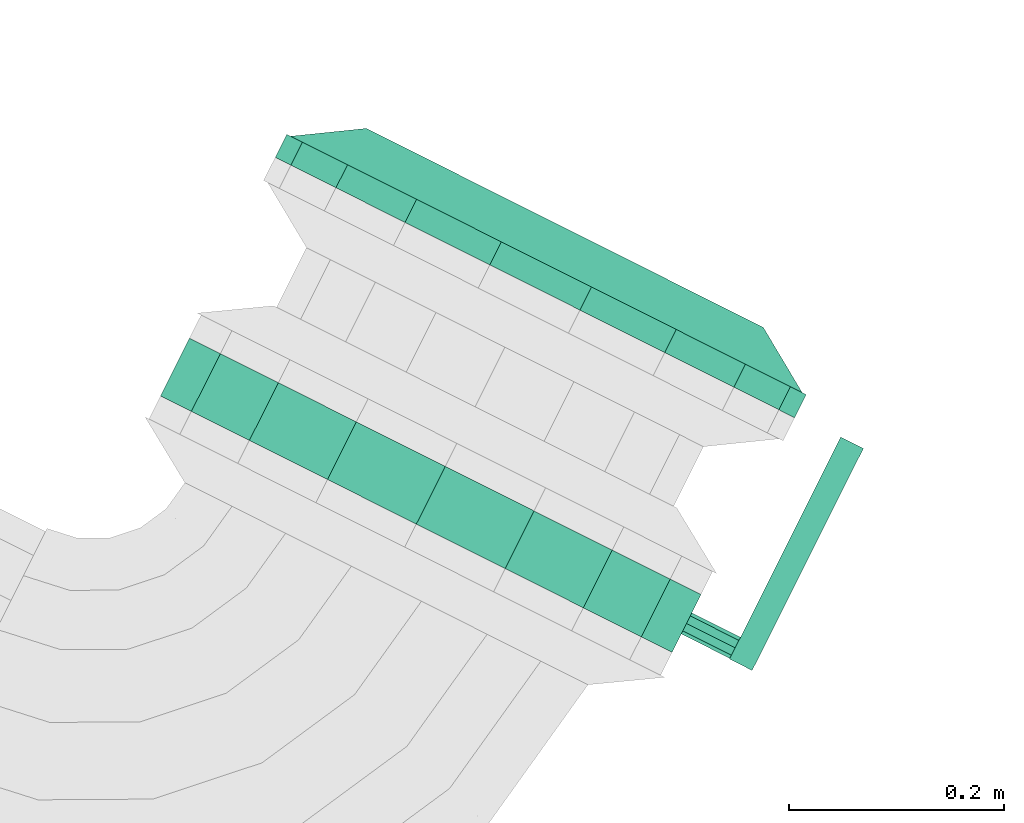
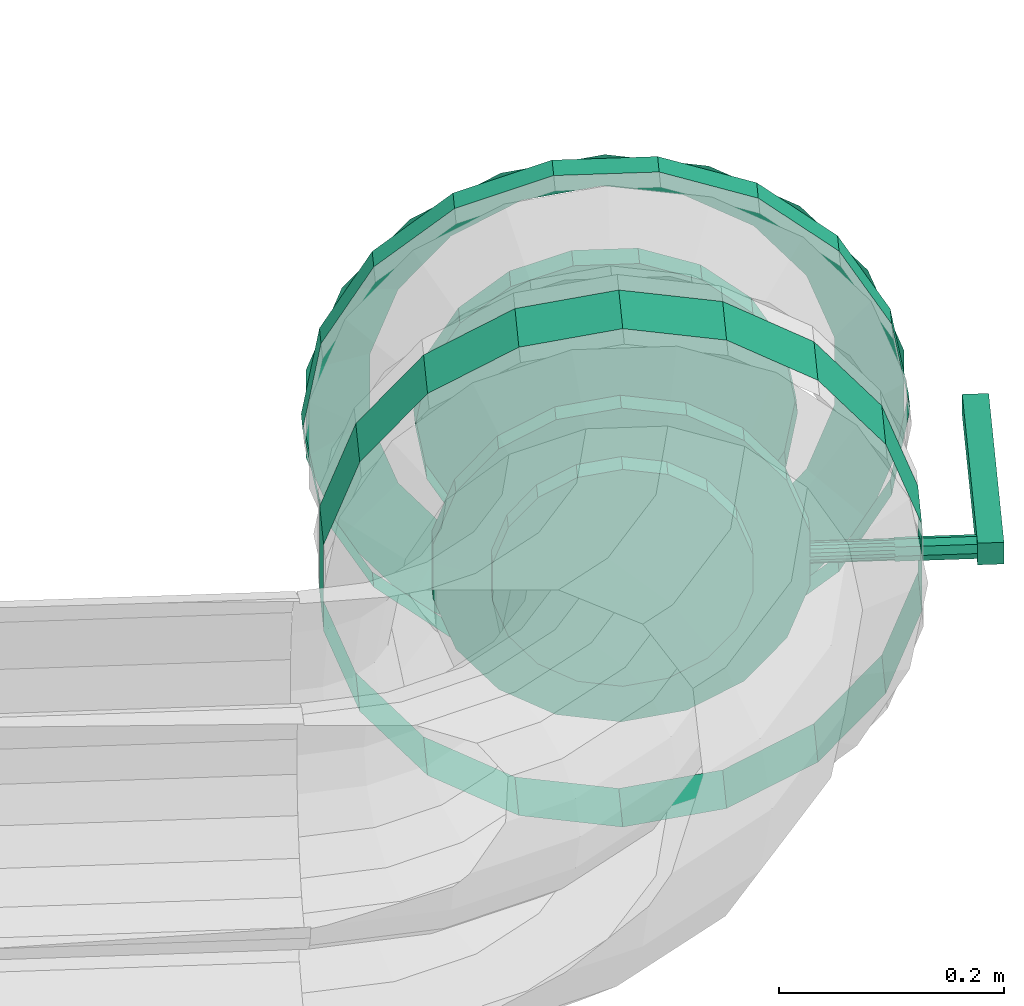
# One storey, part 54 of 152: 1 flow controller, 1 flow fitting.
"""IFC2X3 building model written with IfcOpenShell, lengths in metres."""

from ifc_helpers import new_model, si_unit, derived_unit, direction, frame, origin, place, context, subcontext, project, spatial, face_set, surface_model, source, transform, mapped, material, type_object, type_shapes, element, save


model = new_model("IFC2X3")

# Units and contexts
model_context = context("Model", 3, precision=5.2338327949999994e-05, world=origin(), true_north=direction((0.0, 1.0)))
body_context = subcontext(model_context, "Body", "Model", "MODEL_VIEW")
ifc_project = project(units=[si_unit("LENGTHUNIT", "METRE"), si_unit("AREAUNIT", "SQUARE_METRE"), si_unit("VOLUMEUNIT", "CUBIC_METRE"), si_unit("MASSUNIT", "GRAM", prefix="KILO"), si_unit("PLANEANGLEUNIT", "RADIAN"), derived_unit("THERMALTRANSMITTANCEUNIT", [(si_unit("MASSUNIT", "GRAM", prefix="KILO"), 1), (si_unit("THERMODYNAMICTEMPERATUREUNIT", "KELVIN"), -1), (si_unit("TIMEUNIT", "SECOND"), -3)])], contexts=[model_context])

# Site, building, storey
site_placement = place(None, frame((0.0, 0.0, 0.0), z_axis=(0.0, 0.0, 1.0), x_axis=(0.8939966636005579, -0.4480736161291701, 0.0)))
site = spatial("IfcSite", under=ifc_project, at=site_placement, Name="Default", CompositionType="ELEMENT")
building_placement = place(site_placement, origin())
building = spatial("IfcBuilding", under=site, at=building_placement, CompositionType="ELEMENT")
storey_placement = place(building_placement, frame((0.0, 0.0, 2.7499999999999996)))
storey = spatial("IfcBuildingStorey", under=building, at=storey_placement, Name="1. Obergeschoss", CompositionType="ELEMENT", Elevation=2.7499999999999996)

# Flow controller
ifc_material = material(Name="IfcSurfaceStyle #9317")
distribution_element_type_1 = type_object("IfcDistributionElementType", Name="Zwischenflanschklappe 301597:Zwischenflanschklappe 301597", material=ifc_material)
shared_shape_1 = source(origin(), body_context, "Body", "SurfaceModel", [
    surface_model("IfcFaceBasedSurfaceModel", [(35.32102814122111, 9.250086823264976, 4.571299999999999), (35.32102814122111, 9.019236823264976, 4.571299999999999), (35.32102814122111, 9.019236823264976, 4.547799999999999), (35.32102814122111, 9.250086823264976, 4.547799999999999), (35.34452814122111, 9.019236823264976, 4.547799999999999), (35.34452814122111, 9.250086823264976, 4.547799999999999), (35.34452814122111, 9.019236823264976, 4.571299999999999), (35.34452814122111, 9.250086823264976, 4.571299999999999), (35.004528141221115, 9.060986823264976, 4.442049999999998), (35.044715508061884, 9.060986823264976, 4.4491361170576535), (35.044715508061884, 9.040986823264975, 4.4491361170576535), (35.004528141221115, 9.040986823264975, 4.442049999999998), (35.080055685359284, 9.060986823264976, 4.469539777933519), (35.080055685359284, 9.040986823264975, 4.469539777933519), (35.10628612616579, 9.060986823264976, 4.500799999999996), (35.10628612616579, 9.040986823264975, 4.500799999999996), (35.12024305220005, 9.060986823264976, 4.539146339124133), (35.12024305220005, 9.040986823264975, 4.539146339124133), (35.12024305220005, 9.060986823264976, 4.579953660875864), (35.12024305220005, 9.040986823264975, 4.579953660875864), (35.10628612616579, 9.060986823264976, 4.618300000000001), (35.10628612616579, 9.040986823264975, 4.618300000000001), (35.080055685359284, 9.060986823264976, 4.649560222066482), (35.080055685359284, 9.040986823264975, 4.649560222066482), (35.044715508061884, 9.060986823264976, 4.669963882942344), (35.044715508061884, 9.040986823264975, 4.669963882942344), (35.004528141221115, 9.060986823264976, 4.677049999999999), (35.004528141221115, 9.040986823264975, 4.677049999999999), (34.964340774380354, 9.060986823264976, 4.669963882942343), (34.964340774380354, 9.040986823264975, 4.669963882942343), (34.929000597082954, 9.060986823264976, 4.6495602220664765), (34.929000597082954, 9.040986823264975, 4.6495602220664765), (34.902770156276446, 9.060986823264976, 4.618299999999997), (34.902770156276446, 9.040986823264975, 4.618299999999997), (34.888813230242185, 9.060986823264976, 4.579953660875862), (34.888813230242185, 9.040986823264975, 4.579953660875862), (34.888813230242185, 9.060986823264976, 4.539146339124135), (34.888813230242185, 9.040986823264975, 4.539146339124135), (34.902770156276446, 9.060986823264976, 4.5008), (34.902770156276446, 9.040986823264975, 4.5008), (34.929000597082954, 9.060986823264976, 4.46953977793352), (34.929000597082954, 9.040986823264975, 4.46953977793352), (34.964340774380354, 9.060986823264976, 4.449136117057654), (34.964340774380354, 9.040986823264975, 4.449136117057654), (35.004528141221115, 9.060986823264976, 4.559549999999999), (35.004528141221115, 9.040986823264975, 4.559549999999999), (35.004528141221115, 9.040986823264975, 4.389549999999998), (35.06267156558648, 9.040986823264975, 4.399802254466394), (35.06267156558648, 9.020986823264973, 4.399802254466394), (35.004528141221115, 9.020986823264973, 4.389549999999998), (35.11380203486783, 9.040986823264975, 4.429322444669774), (35.11380203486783, 9.020986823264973, 4.429322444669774), (35.151752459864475, 9.040986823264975, 4.47455), (35.151752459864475, 9.020986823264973, 4.47455), (35.17194545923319, 9.040986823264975, 4.530029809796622), (35.17194545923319, 9.020986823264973, 4.530029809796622), (35.17194545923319, 9.040986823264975, 4.589070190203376), (35.17194545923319, 9.020986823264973, 4.589070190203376), (35.151752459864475, 9.040986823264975, 4.64455), (35.151752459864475, 9.020986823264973, 4.64455), (35.11380203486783, 9.040986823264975, 4.689777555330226), (35.11380203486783, 9.020986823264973, 4.689777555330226), (35.06267156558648, 9.040986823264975, 4.719297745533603), (35.06267156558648, 9.020986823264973, 4.719297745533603), (35.004528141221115, 9.040986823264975, 4.72955), (35.004528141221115, 9.020986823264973, 4.72955), (34.94638471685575, 9.040986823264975, 4.719297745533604), (34.94638471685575, 9.020986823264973, 4.719297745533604), (34.8952542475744, 9.040986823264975, 4.6897775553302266), (34.8952542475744, 9.020986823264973, 4.6897775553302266), (34.85730382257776, 9.040986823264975, 4.64455), (34.85730382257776, 9.020986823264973, 4.64455), (34.83711082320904, 9.040986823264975, 4.589070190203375), (34.83711082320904, 9.020986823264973, 4.589070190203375), (34.83711082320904, 9.040986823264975, 4.530029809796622), (34.83711082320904, 9.020986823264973, 4.530029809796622), (34.85730382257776, 9.040986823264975, 4.474550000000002), (34.85730382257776, 9.020986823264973, 4.474550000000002), (34.8952542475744, 9.040986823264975, 4.429322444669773), (34.8952542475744, 9.020986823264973, 4.429322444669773), (34.94638471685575, 9.040986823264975, 4.399802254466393), (34.94638471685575, 9.020986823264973, 4.399802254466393), (35.004528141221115, 9.020986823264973, 4.559549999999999), (35.004528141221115, 9.020986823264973, 4.442049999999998), (35.044715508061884, 9.020986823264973, 4.4491361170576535), (35.044715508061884, 9.000986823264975, 4.4491361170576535), (35.004528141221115, 9.000986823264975, 4.442049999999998), (35.080055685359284, 9.020986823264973, 4.469539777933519), (35.080055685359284, 9.000986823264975, 4.469539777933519), (35.10628612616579, 9.020986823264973, 4.500799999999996), (35.10628612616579, 9.000986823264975, 4.500799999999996), (35.12024305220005, 9.020986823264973, 4.539146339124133), (35.12024305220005, 9.000986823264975, 4.539146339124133), (35.12024305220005, 9.020986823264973, 4.579953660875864), (35.12024305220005, 9.000986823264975, 4.579953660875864), (35.10628612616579, 9.020986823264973, 4.618300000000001), (35.10628612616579, 9.000986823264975, 4.618300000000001), (35.080055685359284, 9.020986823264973, 4.649560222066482), (35.080055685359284, 9.000986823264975, 4.649560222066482), (35.044715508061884, 9.020986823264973, 4.669963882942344), (35.044715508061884, 9.000986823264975, 4.669963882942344), (35.004528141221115, 9.020986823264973, 4.677049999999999), (35.004528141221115, 9.000986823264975, 4.677049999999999), (34.964340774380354, 9.020986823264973, 4.669963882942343), (34.964340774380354, 9.000986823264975, 4.669963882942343), (34.929000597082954, 9.020986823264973, 4.6495602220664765), (34.929000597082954, 9.000986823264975, 4.6495602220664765), (34.902770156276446, 9.020986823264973, 4.618299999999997), (34.902770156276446, 9.000986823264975, 4.618299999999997), (34.888813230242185, 9.020986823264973, 4.579953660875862), (34.888813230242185, 9.000986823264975, 4.579953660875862), (34.888813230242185, 9.020986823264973, 4.539146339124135), (34.888813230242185, 9.000986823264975, 4.539146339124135), (34.902770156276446, 9.020986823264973, 4.5008), (34.902770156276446, 9.000986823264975, 4.5008), (34.929000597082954, 9.020986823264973, 4.46953977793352), (34.929000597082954, 9.000986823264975, 4.46953977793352), (34.964340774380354, 9.020986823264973, 4.449136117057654), (34.964340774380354, 9.000986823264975, 4.449136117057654), (35.004528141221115, 9.000986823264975, 4.559549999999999), (35.004528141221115, 9.030986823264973, 4.549549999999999), (35.004528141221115, 9.034407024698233, 4.55015307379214), (35.24777814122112, 9.034407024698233, 4.55015307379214), (35.24777814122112, 9.030986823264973, 4.549549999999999), (35.004528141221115, 9.03741469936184, 4.55188955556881), (35.24777814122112, 9.03741469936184, 4.55188955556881), (35.004528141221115, 9.03964707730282, 4.554549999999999), (35.24777814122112, 9.03964707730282, 4.554549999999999), (35.004528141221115, 9.040834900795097, 4.55781351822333), (35.24777814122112, 9.040834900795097, 4.55781351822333), (35.004528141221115, 9.040834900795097, 4.561286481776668), (35.24777814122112, 9.040834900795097, 4.561286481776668), (35.004528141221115, 9.03964707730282, 4.564549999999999), (35.24777814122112, 9.03964707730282, 4.564549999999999), (35.004528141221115, 9.03741469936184, 4.567210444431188), (35.24777814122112, 9.03741469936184, 4.567210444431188), (35.004528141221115, 9.034407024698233, 4.568946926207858), (35.24777814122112, 9.034407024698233, 4.568946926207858), (35.004528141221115, 9.030986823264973, 4.56955), (35.24777814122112, 9.030986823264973, 4.56955), (35.004528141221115, 9.027566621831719, 4.568946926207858), (35.24777814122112, 9.027566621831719, 4.568946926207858), (35.004528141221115, 9.02455894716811, 4.567210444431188), (35.24777814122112, 9.02455894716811, 4.567210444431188), (35.004528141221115, 9.02232656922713, 4.564549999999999), (35.24777814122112, 9.02232656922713, 4.564549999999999), (35.004528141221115, 9.021138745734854, 4.561286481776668), (35.24777814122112, 9.021138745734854, 4.561286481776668), (35.004528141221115, 9.021138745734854, 4.55781351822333), (35.24777814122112, 9.021138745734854, 4.55781351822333), (35.004528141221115, 9.02232656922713, 4.554549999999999), (35.24777814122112, 9.02232656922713, 4.554549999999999), (35.004528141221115, 9.02455894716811, 4.55188955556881), (35.24777814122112, 9.02455894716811, 4.55188955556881), (35.004528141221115, 9.027566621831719, 4.55015307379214), (35.24777814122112, 9.027566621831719, 4.55015307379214), (35.004528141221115, 9.030986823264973, 4.559549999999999), (35.24777814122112, 9.030986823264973, 4.559549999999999), (35.24777814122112, 9.030986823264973, 4.548594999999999), (35.24777814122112, 9.038733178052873, 4.5518036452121), (35.32102814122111, 9.038733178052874, 4.5518036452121), (35.32102814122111, 9.030986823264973, 4.548594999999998), (35.24777814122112, 9.041941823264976, 4.559549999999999), (35.32102814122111, 9.041941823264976, 4.559549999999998), (35.24777814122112, 9.038733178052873, 4.567296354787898), (35.32102814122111, 9.038733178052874, 4.5672963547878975), (35.24777814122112, 9.030986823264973, 4.570504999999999), (35.32102814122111, 9.030986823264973, 4.570504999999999), (35.24777814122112, 9.023240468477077, 4.567296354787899), (35.32102814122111, 9.023240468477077, 4.567296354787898), (35.24777814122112, 9.020031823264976, 4.559549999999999), (35.32102814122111, 9.020031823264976, 4.559549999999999), (35.24777814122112, 9.023240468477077, 4.5518036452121), (35.32102814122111, 9.023240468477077, 4.5518036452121), (35.32102814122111, 9.030986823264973, 4.559549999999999), (35.004528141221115, 9.060986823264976, 4.289549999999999), (35.09687357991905, 9.060986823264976, 4.305832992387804), (35.09687357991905, 9.000986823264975, 4.305832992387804), (35.004528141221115, 9.000986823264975, 4.289549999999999), (35.178080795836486, 9.060986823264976, 4.352718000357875), (35.178080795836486, 9.000986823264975, 4.352718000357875), (35.23835500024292, 9.060986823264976, 4.424549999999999), (35.23835500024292, 9.000986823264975, 4.424549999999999), (35.27042623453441, 9.060986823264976, 4.512664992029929), (35.27042623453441, 9.000986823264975, 4.512664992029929), (35.27042623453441, 9.060986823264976, 4.606435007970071), (35.27042623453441, 9.000986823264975, 4.606435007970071), (35.23835500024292, 9.060986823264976, 4.694549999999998), (35.23835500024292, 9.000986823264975, 4.694549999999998), (35.178080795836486, 9.060986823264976, 4.766381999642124), (35.178080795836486, 9.000986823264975, 4.766381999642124), (35.09687357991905, 9.060986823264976, 4.813267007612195), (35.09687357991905, 9.000986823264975, 4.813267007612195), (35.004528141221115, 9.060986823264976, 4.8295499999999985), (35.004528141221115, 9.000986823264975, 4.8295499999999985), (34.91218270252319, 9.060986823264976, 4.813267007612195), (34.91218270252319, 9.000986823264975, 4.813267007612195), (34.83097548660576, 9.060986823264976, 4.766381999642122), (34.83097548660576, 9.000986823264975, 4.766381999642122), (34.77070128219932, 9.060986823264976, 4.694549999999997), (34.77070128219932, 9.000986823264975, 4.694549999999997), (34.73863004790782, 9.060986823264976, 4.606435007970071), (34.73863004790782, 9.000986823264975, 4.606435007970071), (34.73863004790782, 9.060986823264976, 4.5126649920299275), (34.73863004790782, 9.000986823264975, 4.5126649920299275), (34.77070128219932, 9.060986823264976, 4.424549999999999), (34.77070128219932, 9.000986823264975, 4.424549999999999), (34.83097548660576, 9.060986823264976, 4.352718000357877), (34.83097548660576, 9.000986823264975, 4.352718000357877), (34.91218270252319, 9.060986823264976, 4.3058329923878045), (34.91218270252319, 9.000986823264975, 4.3058329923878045)], [face_set([[[0, 1, 2, 3]], [[3, 2, 4, 5]], [[5, 4, 6, 7]], [[7, 6, 1, 0]], [[0, 3, 5, 7]], [[6, 4, 2, 1]], [[8, 9, 10, 11]], [[9, 12, 13, 10]], [[12, 14, 15, 13]], [[14, 16, 17, 15]], [[16, 18, 19, 17]], [[18, 20, 21, 19]], [[20, 22, 23, 21]], [[22, 24, 25, 23]], [[24, 26, 27, 25]], [[26, 28, 29, 27]], [[28, 30, 31, 29]], [[30, 32, 33, 31]], [[32, 34, 35, 33]], [[34, 36, 37, 35]], [[36, 38, 39, 37]], [[38, 40, 41, 39]], [[40, 42, 43, 41]], [[42, 8, 11, 43]], [[44, 9, 8]], [[44, 12, 9]], [[44, 14, 12]], [[44, 16, 14]], [[44, 18, 16]], [[44, 20, 18]], [[44, 22, 20]], [[44, 24, 22]], [[44, 26, 24]], [[44, 28, 26]], [[44, 30, 28]], [[44, 32, 30]], [[44, 34, 32]], [[44, 36, 34]], [[44, 38, 36]], [[44, 40, 38]], [[44, 42, 40]], [[44, 8, 42]], [[45, 43, 11]], [[45, 41, 43]], [[45, 39, 41]], [[45, 37, 39]], [[45, 35, 37]], [[45, 33, 35]], [[45, 31, 33]], [[45, 29, 31]], [[45, 27, 29]], [[45, 25, 27]], [[45, 23, 25]], [[45, 21, 23]], [[45, 19, 21]], [[45, 17, 19]], [[45, 15, 17]], [[45, 13, 15]], [[45, 10, 13]], [[45, 11, 10]], [[46, 47, 48, 49]], [[47, 50, 51, 48]], [[50, 52, 53, 51]], [[52, 54, 55, 53]], [[54, 56, 57, 55]], [[56, 58, 59, 57]], [[58, 60, 61, 59]], [[60, 62, 63, 61]], [[62, 64, 65, 63]], [[64, 66, 67, 65]], [[66, 68, 69, 67]], [[68, 70, 71, 69]], [[70, 72, 73, 71]], [[72, 74, 75, 73]], [[74, 76, 77, 75]], [[76, 78, 79, 77]], [[78, 80, 81, 79]], [[80, 46, 49, 81]], [[45, 47, 46]], [[45, 50, 47]], [[45, 52, 50]], [[45, 54, 52]], [[45, 56, 54]], [[45, 58, 56]], [[45, 60, 58]], [[45, 62, 60]], [[45, 64, 62]], [[45, 66, 64]], [[45, 68, 66]], [[45, 70, 68]], [[45, 72, 70]], [[45, 74, 72]], [[45, 76, 74]], [[45, 78, 76]], [[45, 80, 78]], [[45, 46, 80]], [[82, 81, 49]], [[82, 79, 81]], [[82, 77, 79]], [[82, 75, 77]], [[82, 73, 75]], [[82, 71, 73]], [[82, 69, 71]], [[82, 67, 69]], [[82, 65, 67]], [[82, 63, 65]], [[82, 61, 63]], [[82, 59, 61]], [[82, 57, 59]], [[82, 55, 57]], [[82, 53, 55]], [[82, 51, 53]], [[82, 48, 51]], [[82, 49, 48]], [[83, 84, 85, 86]], [[84, 87, 88, 85]], [[87, 89, 90, 88]], [[89, 91, 92, 90]], [[91, 93, 94, 92]], [[93, 95, 96, 94]], [[95, 97, 98, 96]], [[97, 99, 100, 98]], [[99, 101, 102, 100]], [[101, 103, 104, 102]], [[103, 105, 106, 104]], [[105, 107, 108, 106]], [[107, 109, 110, 108]], [[109, 111, 112, 110]], [[111, 113, 114, 112]], [[113, 115, 116, 114]], [[115, 117, 118, 116]], [[117, 83, 86, 118]], [[82, 84, 83]], [[82, 87, 84]], [[82, 89, 87]], [[82, 91, 89]], [[82, 93, 91]], [[82, 95, 93]], [[82, 97, 95]], [[82, 99, 97]], [[82, 101, 99]], [[82, 103, 101]], [[82, 105, 103]], [[82, 107, 105]], [[82, 109, 107]], [[82, 111, 109]], [[82, 113, 111]], [[82, 115, 113]], [[82, 117, 115]], [[82, 83, 117]], [[119, 118, 86]], [[119, 116, 118]], [[119, 114, 116]], [[119, 112, 114]], [[119, 110, 112]], [[119, 108, 110]], [[119, 106, 108]], [[119, 104, 106]], [[119, 102, 104]], [[119, 100, 102]], [[119, 98, 100]], [[119, 96, 98]], [[119, 94, 96]], [[119, 92, 94]], [[119, 90, 92]], [[119, 88, 90]], [[119, 85, 88]], [[119, 86, 85]], [[120, 121, 122, 123]], [[121, 124, 125, 122]], [[124, 126, 127, 125]], [[126, 128, 129, 127]], [[128, 130, 131, 129]], [[130, 132, 133, 131]], [[132, 134, 135, 133]], [[134, 136, 137, 135]], [[136, 138, 139, 137]], [[138, 140, 141, 139]], [[140, 142, 143, 141]], [[142, 144, 145, 143]], [[144, 146, 147, 145]], [[146, 148, 149, 147]], [[148, 150, 151, 149]], [[150, 152, 153, 151]], [[152, 154, 155, 153]], [[154, 120, 123, 155]], [[156, 121, 120]], [[156, 124, 121]], [[156, 126, 124]], [[156, 128, 126]], [[156, 130, 128]], [[156, 132, 130]], [[156, 134, 132]], [[156, 136, 134]], [[156, 138, 136]], [[156, 140, 138]], [[156, 142, 140]], [[156, 144, 142]], [[156, 146, 144]], [[156, 148, 146]], [[156, 150, 148]], [[156, 152, 150]], [[156, 154, 152]], [[156, 120, 154]], [[157, 155, 123]], [[157, 153, 155]], [[157, 151, 153]], [[157, 149, 151]], [[157, 147, 149]], [[157, 145, 147]], [[157, 143, 145]], [[157, 141, 143]], [[157, 139, 141]], [[157, 137, 139]], [[157, 135, 137]], [[157, 133, 135]], [[157, 131, 133]], [[157, 129, 131]], [[157, 127, 129]], [[157, 125, 127]], [[157, 122, 125]], [[157, 123, 122]], [[158, 159, 160, 161]], [[159, 162, 163, 160]], [[162, 164, 165, 163]], [[164, 166, 167, 165]], [[166, 168, 169, 167]], [[168, 170, 171, 169]], [[170, 172, 173, 171]], [[172, 158, 161, 173]], [[174, 173, 161]], [[174, 171, 173]], [[174, 169, 171]], [[174, 167, 169]], [[174, 165, 167]], [[174, 163, 165]], [[174, 160, 163]], [[174, 161, 160]], [[175, 176, 177, 178]], [[176, 179, 180, 177]], [[179, 181, 182, 180]], [[181, 183, 184, 182]], [[183, 185, 186, 184]], [[185, 187, 188, 186]], [[187, 189, 190, 188]], [[189, 191, 192, 190]], [[191, 193, 194, 192]], [[193, 195, 196, 194]], [[195, 197, 198, 196]], [[197, 199, 200, 198]], [[199, 201, 202, 200]], [[201, 203, 204, 202]], [[203, 205, 206, 204]], [[205, 207, 208, 206]], [[207, 209, 210, 208]], [[209, 175, 178, 210]]])]),
])
type_shapes(distribution_element_type_1, [shared_shape_1])
flow_controller_placement = place(storey_placement, frame((0.0, 0.0, -2.7499999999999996)))
element("IfcFlowController", 1, at=flow_controller_placement, inside=storey, type_object=distribution_element_type_1, material=ifc_material, Name="Zwischenflanschklappe", ObjectType="Zwischenflanschklappe", context=body_context, shape_type="MappedRepresentation", body=[
    mapped(shared_shape_1, transform((0.0, 0.0, 0.0), scale=1.0)),
])

# Flow fitting
distribution_element_type_2 = type_object("IfcDistributionElementType", Name="Flansch 303291:Flansch 303291", material=ifc_material)
shared_shape_2 = source(origin(), body_context, "Body", "SurfaceModel", [
    surface_model("IfcFaceBasedSurfaceModel", [(35.004528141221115, 9.308950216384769, 4.669100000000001), (34.9670598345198, 9.308950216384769, 4.6624933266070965), (34.96434077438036, 9.270950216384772, 4.669963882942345), (35.00452814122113, 9.270950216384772, 4.677050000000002), (34.93411075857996, 9.308950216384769, 4.643470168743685), (34.929000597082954, 9.270950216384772, 4.649560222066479), (34.909655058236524, 9.308950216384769, 4.614325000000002), (34.902770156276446, 9.270950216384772, 4.6183000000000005), (34.896642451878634, 9.30895021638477, 4.578573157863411), (34.888813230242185, 9.270950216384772, 4.579953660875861), (34.896642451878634, 9.30895021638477, 4.540526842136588), (34.888813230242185, 9.270950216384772, 4.539146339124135), (34.90965505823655, 9.308950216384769, 4.504775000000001), (34.902770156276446, 9.27095021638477, 4.500800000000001), (34.934110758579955, 9.30895021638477, 4.475629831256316), (34.92900059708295, 9.270950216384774, 4.469539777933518), (34.967059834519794, 9.30895021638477, 4.456606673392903), (34.964340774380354, 9.270950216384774, 4.4491361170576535), (35.004528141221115, 9.30895021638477, 4.45), (35.004528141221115, 9.270950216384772, 4.442049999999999), (35.041996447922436, 9.30895021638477, 4.456606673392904), (35.044715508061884, 9.270950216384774, 4.449136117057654), (35.07494552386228, 9.30895021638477, 4.475629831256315), (35.080055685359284, 9.270950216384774, 4.469539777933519), (35.09940122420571, 9.30895021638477, 4.504775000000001), (35.106286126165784, 9.270950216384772, 4.5008), (35.11241383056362, 9.30895021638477, 4.540526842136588), (35.12024305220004, 9.270950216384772, 4.539146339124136), (35.1124138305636, 9.308950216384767, 4.578573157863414), (35.12024305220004, 9.27095021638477, 4.579953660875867), (35.09940122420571, 9.30895021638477, 4.614325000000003), (35.10628612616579, 9.270950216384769, 4.618300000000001), (35.07494552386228, 9.308950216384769, 4.643470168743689), (35.080055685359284, 9.270950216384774, 4.649560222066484), (35.04199644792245, 9.30895021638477, 4.662493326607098), (35.044715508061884, 9.270950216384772, 4.669963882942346), (34.83452814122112, 9.270950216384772, 4.559549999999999), (34.844780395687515, 9.270950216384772, 4.501406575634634), (34.844780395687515, 9.246950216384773, 4.501406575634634), (34.83452814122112, 9.246950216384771, 4.559549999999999), (34.874300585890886, 9.270950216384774, 4.450276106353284), (34.874300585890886, 9.246950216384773, 4.450276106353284), (34.91952814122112, 9.270950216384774, 4.412325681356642), (34.91952814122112, 9.246950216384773, 4.412325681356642), (34.975007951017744, 9.270950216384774, 4.392132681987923), (34.975007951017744, 9.246950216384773, 4.392132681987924), (35.0340483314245, 9.270950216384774, 4.392132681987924), (35.0340483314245, 9.246950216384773, 4.392132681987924), (35.08952814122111, 9.270950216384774, 4.412325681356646), (35.08952814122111, 9.246950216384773, 4.412325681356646), (35.134755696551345, 9.270950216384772, 4.45027610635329), (35.134755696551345, 9.246950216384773, 4.450276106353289), (35.16427588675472, 9.270950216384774, 4.501406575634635), (35.16427588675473, 9.246950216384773, 4.501406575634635), (35.17452814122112, 9.270950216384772, 4.5595500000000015), (35.17452814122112, 9.246950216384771, 4.559550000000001), (35.16427588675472, 9.270950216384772, 4.617693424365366), (35.16427588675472, 9.246950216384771, 4.617693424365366), (35.13475569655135, 9.270950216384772, 4.668823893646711), (35.13475569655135, 9.246950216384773, 4.668823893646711), (35.08952814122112, 9.270950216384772, 4.706774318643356), (35.08952814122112, 9.246950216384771, 4.706774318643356), (35.0340483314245, 9.270950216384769, 4.726967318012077), (35.0340483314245, 9.24695021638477, 4.726967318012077), (34.97500795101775, 9.270950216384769, 4.7269673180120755), (34.97500795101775, 9.24695021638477, 4.7269673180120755), (34.91952814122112, 9.270950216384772, 4.7067743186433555), (34.91952814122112, 9.246950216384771, 4.706774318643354), (34.8743005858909, 9.270950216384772, 4.668823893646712), (34.8743005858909, 9.246950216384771, 4.668823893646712), (34.84478039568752, 9.270950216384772, 4.617693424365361), (34.84478039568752, 9.246950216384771, 4.617693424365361), (35.004528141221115, 9.270950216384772, 4.559550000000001), (35.00452814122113, 9.308950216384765, 4.769100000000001), (34.93285782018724, 9.308950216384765, 4.756462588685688), (34.912182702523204, 9.270950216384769, 4.813267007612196), (35.00452814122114, 9.270950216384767, 4.829550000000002), (34.869831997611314, 9.308950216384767, 4.720074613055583), (34.830975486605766, 9.270950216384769, 4.766381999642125), (34.8230525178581, 9.308950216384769, 4.664325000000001), (34.770701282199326, 9.270950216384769, 4.69455), (34.79816167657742, 9.30895021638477, 4.595937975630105), (34.73863004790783, 9.270950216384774, 4.606435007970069), (34.798161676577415, 9.308950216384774, 4.523162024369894), (34.73863004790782, 9.270950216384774, 4.512664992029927), (34.82305251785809, 9.308950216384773, 4.454774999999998), (34.770701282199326, 9.270950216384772, 4.424549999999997), (34.86983199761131, 9.308950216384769, 4.399025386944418), (34.83097548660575, 9.27095021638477, 4.352718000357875), (34.93285782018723, 9.30895021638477, 4.362637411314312), (34.91218270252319, 9.270950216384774, 4.305832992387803), (35.00452814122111, 9.308950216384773, 4.35), (35.004528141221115, 9.270950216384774, 4.2895499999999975), (35.07619846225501, 9.308950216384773, 4.362637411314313), (35.09687357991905, 9.270950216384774, 4.305832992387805), (35.13922428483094, 9.30895021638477, 4.39902538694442), (35.178080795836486, 9.270950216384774, 4.352718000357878), (35.18600376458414, 9.308950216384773, 4.454775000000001), (35.23835500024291, 9.270950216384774, 4.424550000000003), (35.21089460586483, 9.308950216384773, 4.523162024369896), (35.27042623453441, 9.270950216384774, 4.51266499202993), (35.21089460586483, 9.30895021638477, 4.5959379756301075), (35.27042623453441, 9.270950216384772, 4.606435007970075), (35.18600376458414, 9.308950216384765, 4.6643250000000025), (35.238355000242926, 9.270950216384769, 4.694550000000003), (35.139224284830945, 9.308950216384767, 4.720074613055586), (35.178080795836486, 9.27095021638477, 4.766381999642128), (35.07619846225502, 9.308950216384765, 4.756462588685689), (35.09687357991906, 9.270950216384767, 4.813267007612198), (34.734528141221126, 9.270950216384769, 4.559549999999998), (34.75081113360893, 9.270950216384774, 4.467204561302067), (34.75081113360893, 9.246950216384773, 4.467204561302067), (34.734528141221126, 9.24695021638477, 4.559549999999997), (34.797696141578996, 9.270950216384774, 4.385997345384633), (34.797696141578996, 9.246950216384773, 4.385997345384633), (34.8695281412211, 9.270950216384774, 4.325723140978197), (34.8695281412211, 9.246950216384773, 4.325723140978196), (34.95764313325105, 9.270950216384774, 4.293651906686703), (34.95764313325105, 9.246950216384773, 4.293651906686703), (35.051413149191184, 9.270950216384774, 4.293651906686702), (35.051413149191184, 9.246950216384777, 4.293651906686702), (35.13952814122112, 9.270950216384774, 4.325723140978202), (35.13952814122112, 9.246950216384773, 4.325723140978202), (35.211360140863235, 9.270950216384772, 4.385997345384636), (35.211360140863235, 9.246950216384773, 4.385997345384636), (35.25824514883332, 9.270950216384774, 4.4672045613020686), (35.25824514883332, 9.246950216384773, 4.4672045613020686), (35.274528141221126, 9.270950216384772, 4.559550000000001), (35.274528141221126, 9.246950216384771, 4.5595500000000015), (35.258245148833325, 9.270950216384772, 4.651895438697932), (35.258245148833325, 9.246950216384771, 4.651895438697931), (35.21136014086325, 9.270950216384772, 4.733102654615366), (35.21136014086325, 9.246950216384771, 4.733102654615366), (35.13952814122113, 9.270950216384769, 4.793376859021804), (35.13952814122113, 9.24695021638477, 4.793376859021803), (35.051413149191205, 9.270950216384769, 4.8254480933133), (35.051413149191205, 9.246950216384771, 4.825448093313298), (34.95764313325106, 9.270950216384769, 4.825448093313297), (34.95764313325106, 9.24695021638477, 4.825448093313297), (34.869528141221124, 9.270950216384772, 4.793376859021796), (34.869528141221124, 9.246950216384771, 4.793376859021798), (34.797696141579, 9.270950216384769, 4.733102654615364), (34.797696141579, 9.24695021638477, 4.733102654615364), (34.75081113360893, 9.270950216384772, 4.651895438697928), (34.75081113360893, 9.246950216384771, 4.651895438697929)], [face_set([[[0, 1, 2, 3]], [[1, 4, 5, 2]], [[4, 6, 7, 5]], [[6, 8, 9, 7]], [[8, 10, 11, 9]], [[10, 12, 13, 11]], [[12, 14, 15, 13]], [[14, 16, 17, 15]], [[16, 18, 19, 17]], [[18, 20, 21, 19]], [[20, 22, 23, 21]], [[22, 24, 25, 23]], [[24, 26, 27, 25]], [[26, 28, 29, 27]], [[28, 30, 31, 29]], [[30, 32, 33, 31]], [[32, 34, 35, 33]], [[34, 0, 3, 35]], [[36, 37, 38, 39]], [[37, 40, 41, 38]], [[40, 42, 43, 41]], [[42, 44, 45, 43]], [[44, 46, 47, 45]], [[46, 48, 49, 47]], [[48, 50, 51, 49]], [[50, 52, 53, 51]], [[52, 54, 55, 53]], [[54, 56, 57, 55]], [[56, 58, 59, 57]], [[58, 60, 61, 59]], [[60, 62, 63, 61]], [[62, 64, 65, 63]], [[64, 66, 67, 65]], [[66, 68, 69, 67]], [[68, 70, 71, 69]], [[70, 36, 39, 71]], [[72, 37, 36]], [[72, 40, 37]], [[72, 42, 40]], [[72, 44, 42]], [[72, 46, 44]], [[72, 48, 46]], [[72, 50, 48]], [[72, 52, 50]], [[72, 54, 52]], [[72, 56, 54]], [[72, 58, 56]], [[72, 60, 58]], [[72, 62, 60]], [[72, 64, 62]], [[72, 66, 64]], [[72, 68, 66]], [[72, 70, 68]], [[72, 36, 70]], [[73, 74, 75, 76]], [[74, 77, 78, 75]], [[77, 79, 80, 78]], [[79, 81, 82, 80]], [[81, 83, 84, 82]], [[83, 85, 86, 84]], [[85, 87, 88, 86]], [[87, 89, 90, 88]], [[89, 91, 92, 90]], [[91, 93, 94, 92]], [[93, 95, 96, 94]], [[95, 97, 98, 96]], [[97, 99, 100, 98]], [[99, 101, 102, 100]], [[101, 103, 104, 102]], [[103, 105, 106, 104]], [[105, 107, 108, 106]], [[107, 73, 76, 108]], [[109, 110, 111, 112]], [[110, 113, 114, 111]], [[113, 115, 116, 114]], [[115, 117, 118, 116]], [[117, 119, 120, 118]], [[119, 121, 122, 120]], [[121, 123, 124, 122]], [[123, 125, 126, 124]], [[125, 127, 128, 126]], [[127, 129, 130, 128]], [[129, 131, 132, 130]], [[131, 133, 134, 132]], [[133, 135, 136, 134]], [[135, 137, 138, 136]], [[137, 139, 140, 138]], [[139, 141, 142, 140]], [[141, 143, 144, 142]], [[143, 109, 112, 144]]])]),
])
type_shapes(distribution_element_type_2, [shared_shape_2])
flow_fitting_placement = place(storey_placement, frame((0.0, 0.0, -2.7499999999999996)))
element("IfcFlowFitting", 2, at=flow_fitting_placement, inside=storey, type_object=distribution_element_type_2, material=ifc_material, Name="Flansch", ObjectType="Flansch", context=body_context, shape_type="MappedRepresentation", body=[
    mapped(shared_shape_2, transform((0.0, 0.0, 0.0), scale=1.0)),
])

save(model, "model.ifc")
